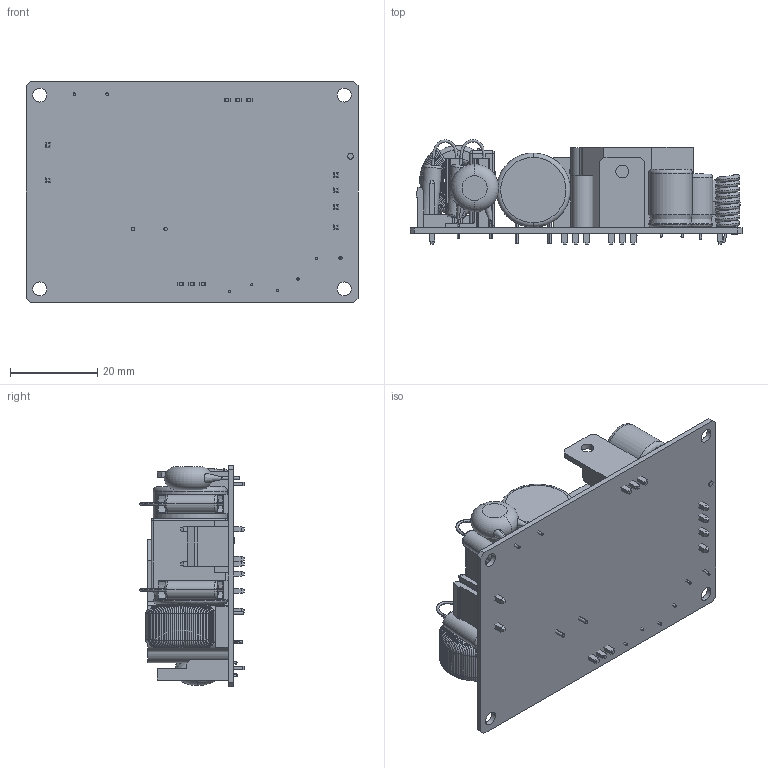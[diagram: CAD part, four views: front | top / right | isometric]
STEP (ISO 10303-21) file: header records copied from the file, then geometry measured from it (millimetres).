
FILE_DESCRIPTION((''),'2;1');
FILE_NAME('MEP-25A15J_BNA_ASM','2019-04-10T',('ANFORNEE.LEE'),(''),'PRO/ENGINEER BY PARAMETRIC TECHNOLOGY CORPORATION, 2010280','PRO/ENGINEER BY PARAMETRIC TECHNOLOGY CORPORATION, 2010280','');
FILE_SCHEMA(('CONFIG_CONTROL_DESIGN'));
Products named in the file (18): MEP-25A15J_BNAR4C0-1_3D_PROE; PCB; AC_INLET; DC_OUTLET; C1; Q1; CY; FL2; C31; CX1; NTC1; C112; C113; CY105; D101; FUSE; L101; MEP-25A15J_BNA_ASM
Assembly tree (19 placements, depth 2):
  MEP-25A15J_BNA_ASM
    MEP-25A15J_BNAR4C0-1_3D_PROE
    PCB
    AC_INLET
    DC_OUTLET
    C1
    Q1
    CY  x2
    FL2
    C31
    CX1
    NTC1
    C112
    C113
    CY105
    D101
    FUSE  x2
    L101
Bounding box: 76.2 x 23.99 x 50.8 mm (x, y, z)
Volume: 30819 mm3; surface area: 22881.2 mm2
Topology: 28 solids, 35 shells, 1800 faces, 3813 edges, 2068 vertices
Faces by surface type: cylinder 736, torus 664, plane 305, bspline 73, revolution 18, sphere 4
Entity records: 58555 total; most frequent: CARTESIAN_POINT 23001, DIRECTION 7459, ORIENTED_EDGE 7248, EDGE_CURVE 3631, AXIS2_PLACEMENT_3D 3215, VERTEX_POINT 1966, EDGE_LOOP 1783, FACE_OUTER_BOUND 1732
